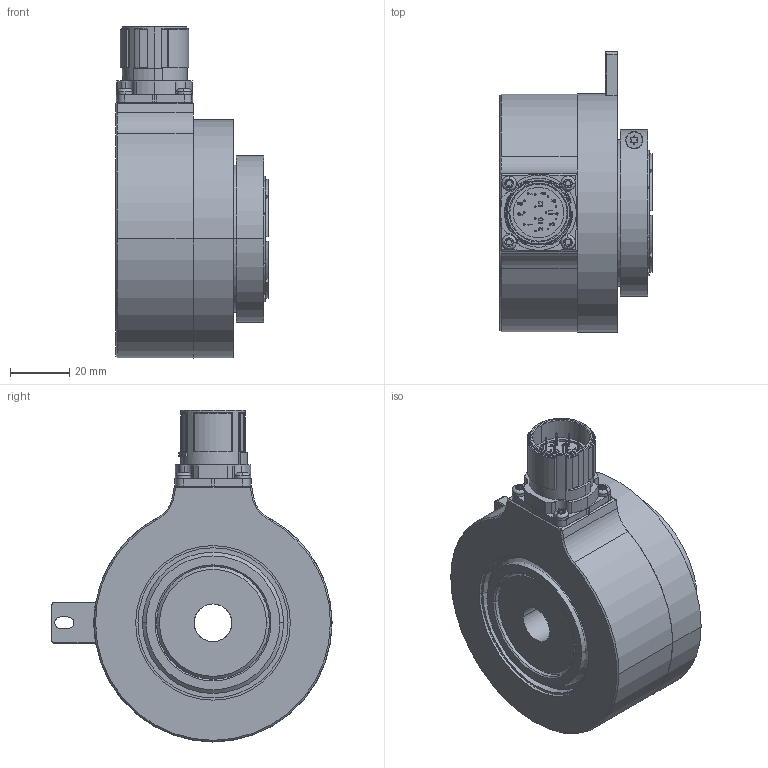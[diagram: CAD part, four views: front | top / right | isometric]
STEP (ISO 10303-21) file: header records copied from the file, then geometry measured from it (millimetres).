
FILE_DESCRIPTION (( 'STEP AP203' ), '1' );
FILE_NAME ('K80I.OXX.XXXXX.XH2183A.6XRC4.step', '2025-12-09T10:09:12', ( '' ), ( '' ), 'SwSTEP 2.0', 'SolidWorks 2021', '' );
FILE_SCHEMA (( 'CONFIG_CONTROL_DESIGN' ));
Length unit declared in the file: millimetre
Products named in the file (1): K80I.OXX.XXXXX.XH2183A.6XRC4
Bounding box: 51.2 x 94.28 x 111.67 mm (x, y, z)
Volume: 224522 mm3; surface area: 72651.9 mm2
Topology: 8 solids, 8 shells, 813 faces, 2140 edges, 1374 vertices
Faces by surface type: plane 318, cylinder 300, bspline 96, cone 45, sphere 34, torus 20
Entity records: 31279 total; most frequent: CARTESIAN_POINT 11414, ORIENTED_EDGE 4204, DIRECTION 4045, EDGE_CURVE 2102, AXIS2_PLACEMENT_3D 1488, VERTEX_POINT 1371, LINE 1069, VECTOR 1069
